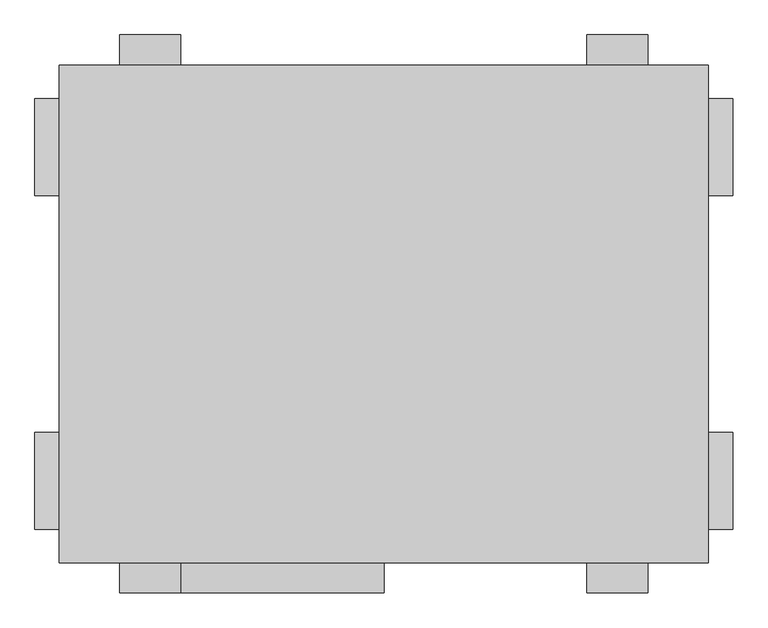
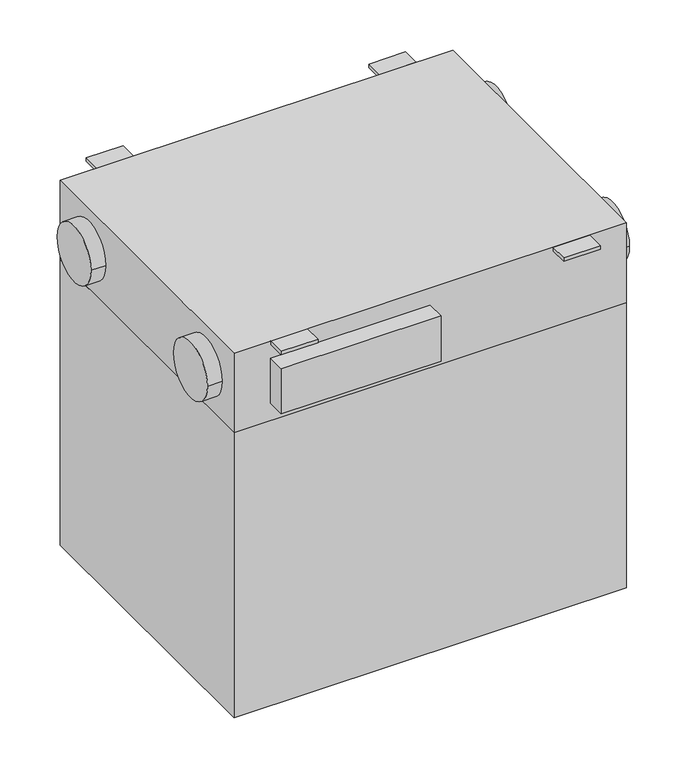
"""IFC4 building model written with IfcOpenShell, lengths in millimetres: proxy geometry, ADSK_КПВУ RONA SRME_круглая : Rona SRME 380 H1."""

from ifc_helpers import new_model, si_unit, frame, origin, place, context, project, spatial, polyline, circle_curve, outline, extrude, source, transform, mapped, element, save
from ifc_brep_helpers import plane_surface, cylinder_surface, advanced_brep


def mechanical_equipment_e5669056(model_context):
    return source(origin(), model_context, "Body", "SolidModel", [
        extrude(outline(polyline([(801.0, 410.0), (801.0, -410.0), (-269.0, -410.0), (-269.0, 410.0), (801.0, 410.0)])), frame((0.0, 0.0, -900.0), z_axis=(0.0, 0.0, 1.0), x_axis=(1.0, 0.0, 0.0)), (0.0, 0.0, 1.0), 820.0),
        advanced_brep(
        [(801.0, -410.0, 150.0), (801.0, -410.0, -80.0), (801.0, 410.0, -80.0), (801.0, 410.0, 150.0), (801.0, -195.0, 35.0), (801.0, -355.0, 35.0), (801.0, 355.0, 35.0), (801.0, 195.0, 35.0), (-269.0, -410.0, 150.0), (-269.0, 410.0, 150.0), (-269.0, 410.0, -80.0), (-269.0, -410.0, -80.0), (-269.0, -195.0, 35.0), (-269.0, -355.0, 35.0), (-269.0, 195.0, 35.0), (-269.0, 355.0, 35.0), (-309.0, -355.0, 35.0), (-309.0, -195.0, 35.0), (-309.0, 195.0, 35.0), (-309.0, 355.0, 35.0), (-169.0, -410.0, 100.0), (266.0, -410.0, 100.0), (266.0, -410.0, -30.0), (-169.0, -410.0, -30.0), (841.0, -355.0, 35.0), (841.0, -195.0, 35.0), (841.0, 195.0, 35.0), (841.0, 355.0, 35.0), (-169.0, -460.0, 100.0), (266.0, -460.0, 100.0), (266.0, -460.0, -30.0), (-169.0, -460.0, -30.0)],
        [
            (0, 1),
            (1, 2),
            (2, 3),
            (3, 0),
            (4, 5, circle_curve(frame((801.0, -275.0, 35.0), z_axis=(-1.0, 0.0, 0.0), x_axis=(0.0, 1.0, 0.0)), 80.0)),
            (5, 4, circle_curve(frame((801.0, -275.0, 35.0), z_axis=(-1.0, 0.0, 0.0), x_axis=(0.0, 1.0, 0.0)), 80.0)),
            (6, 7, circle_curve(frame((801.0, 275.0, 35.0), z_axis=(-1.0, 0.0, 0.0), x_axis=(0.0, 1.0, 0.0)), 80.0)),
            (7, 6, circle_curve(frame((801.0, 275.0, 35.0), z_axis=(-1.0, 0.0, 0.0), x_axis=(0.0, 1.0, 0.0)), 80.0)),
            (8, 9),
            (9, 10),
            (10, 11),
            (11, 8),
            (12, 13, circle_curve(frame((-269.0, -275.0, 35.0), z_axis=(1.0, 0.0, 0.0), x_axis=(0.0, 1.0, 0.0)), 80.0)),
            (13, 12, circle_curve(frame((-269.0, -275.0, 35.0), z_axis=(1.0, 0.0, 0.0), x_axis=(0.0, 1.0, 0.0)), 80.0)),
            (14, 15, circle_curve(frame((-269.0, 275.0, 35.0), z_axis=(1.0, 0.0, 0.0), x_axis=(0.0, 1.0, 0.0)), 80.0)),
            (15, 14, circle_curve(frame((-269.0, 275.0, 35.0), z_axis=(1.0, 0.0, 0.0), x_axis=(0.0, 1.0, 0.0)), 80.0)),
            (16, 17, circle_curve(frame((-309.0, -275.0, 35.0), z_axis=(-1.0, 0.0, 0.0), x_axis=(0.0, 1.0, 0.0)), 80.0)),
            (17, 16, circle_curve(frame((-309.0, -275.0, 35.0), z_axis=(-1.0, 0.0, 0.0), x_axis=(0.0, 1.0, 0.0)), 80.0)),
            (18, 19, circle_curve(frame((-309.0, 275.0, 35.0), z_axis=(-1.0, 0.0, 0.0), x_axis=(0.0, 1.0, 0.0)), 80.0)),
            (19, 18, circle_curve(frame((-309.0, 275.0, 35.0), z_axis=(-1.0, 0.0, 0.0), x_axis=(0.0, 1.0, 0.0)), 80.0)),
            (0, 8),
            (11, 1),
            (20, 21),
            (21, 22),
            (22, 23),
            (23, 20),
            (10, 2),
            (9, 3),
            (16, 13),
            (12, 17),
            (24, 25, circle_curve(frame((841.0, -275.0, 35.0), z_axis=(1.0, 0.0, 0.0), x_axis=(0.0, 1.0, 0.0)), 80.0)),
            (25, 24, circle_curve(frame((841.0, -275.0, 35.0), z_axis=(1.0, 0.0, 0.0), x_axis=(0.0, 1.0, 0.0)), 80.0)),
            (26, 27, circle_curve(frame((841.0, 275.0, 35.0), z_axis=(1.0, 0.0, 0.0), x_axis=(0.0, 1.0, 0.0)), 80.0)),
            (27, 26, circle_curve(frame((841.0, 275.0, 35.0), z_axis=(1.0, 0.0, 0.0), x_axis=(0.0, 1.0, 0.0)), 80.0)),
            (24, 5),
            (4, 25),
            (19, 15),
            (14, 18),
            (26, 7),
            (6, 27),
            (20, 28),
            (28, 29),
            (29, 21),
            (22, 30),
            (30, 31),
            (31, 23),
            (31, 28),
            (30, 29),
        ],
        [
            plane_surface(frame((801.0, -410.0, 150.0), z_axis=(1.0, 0.0, 0.0), x_axis=(0.0, 0.0, -1.0))),
            plane_surface(frame((-269.0, -410.0, 150.0), z_axis=(-1.0, 0.0, 0.0), x_axis=(0.0, 0.0, 1.0))),
            plane_surface(frame((-309.0, -195.0, 35.0), z_axis=(-1.0, 0.0, 0.0), x_axis=(0.0, 0.0, -1.0))),
            plane_surface(frame((801.0, -410.0, 150.0), z_axis=(0.0, -1.0, 0.0), x_axis=(-1.0, 0.0, 0.0))),
            plane_surface(frame((801.0, -410.0, -80.0), z_axis=(0.0, 0.0, -1.0), x_axis=(-1.0, 0.0, 0.0))),
            plane_surface(frame((801.0, 410.0, -80.0), z_axis=(0.0, 1.0, 0.0), x_axis=(-1.0, 0.0, 0.0))),
            plane_surface(frame((801.0, 410.0, 150.0), z_axis=(0.0, 0.0, 1.0), x_axis=(-1.0, 0.0, 0.0))),
            cylinder_surface(frame((-309.0, -275.0, 35.0), z_axis=(1.0, 0.0, 0.0), x_axis=(0.0, 1.0, 0.0)), 80.0),
            plane_surface(frame((841.0, -195.0, 35.0), z_axis=(1.0, 0.0, 0.0), x_axis=(0.0, 0.0, 1.0))),
            cylinder_surface(frame((801.0, -275.0, 35.0), z_axis=(1.0, 0.0, 0.0), x_axis=(0.0, 1.0, 0.0)), 80.0),
            cylinder_surface(frame((-309.0, 275.0, 35.0), z_axis=(1.0, 0.0, 0.0), x_axis=(0.0, 1.0, 0.0)), 80.0),
            cylinder_surface(frame((801.0, 275.0, 35.0), z_axis=(1.0, 0.0, 0.0), x_axis=(0.0, 1.0, 0.0)), 80.0),
            plane_surface(frame((-169.0, -410.0, 100.0), z_axis=(0.0, 0.0, 1.0), x_axis=(-1.0, 0.0, 0.0))),
            plane_surface(frame((-169.0, -410.0, -30.0), z_axis=(0.0, 0.0, -1.0), x_axis=(1.0, 0.0, 0.0))),
            plane_surface(frame((-169.0, -410.0, 100.0), z_axis=(-1.0, 0.0, 0.0), x_axis=(0.0, 0.0, -1.0))),
            plane_surface(frame((-169.0, -460.0, 100.0), z_axis=(0.0, -1.0, 0.0), x_axis=(0.0, 0.0, -1.0))),
            plane_surface(frame((266.0, -460.0, 100.0), z_axis=(1.0, 0.0, 0.0), x_axis=(0.0, 0.0, -1.0))),
        ],
        [
            (0, [[1, 2, 3, 4], [5, 6], [7, 8]]),
            (1, [[9, 10, 11, 12], [13, 14], [15, 16]]),
            (2, [[17, 18]]),
            (2, [[19, 20]]),
            (3, [[-1, 21, -12, 22], [23, 24, 25, 26]]),
            (4, [[-2, -22, -11, 27]]),
            (5, [[-3, -27, -10, 28]]),
            (6, [[-4, -28, -9, -21]]),
            (7, [[-17, 29, -13, 30]]),
            (7, [[-18, -30, -14, -29]]),
            (8, [[31, 32]]),
            (8, [[33, 34]]),
            (9, [[-31, 35, -5, 36]]),
            (9, [[-32, -36, -6, -35]]),
            (10, [[-20, 37, -15, 38]]),
            (10, [[-19, -38, -16, -37]]),
            (11, [[-33, 39, -7, 40]]),
            (11, [[-34, -40, -8, -39]]),
            (12, [[41, 42, 43, -23]]),
            (13, [[44, 45, 46, -25]]),
            (14, [[-41, -26, -46, 47]]),
            (15, [[-42, -47, -45, 48]]),
            (16, [[-43, -48, -44, -24]]),
        ],
    ),
        extrude(outline(polyline([(-69.0, 460.0), (-69.0, 410.0), (-169.0, 410.0), (-169.0, 460.0), (-69.0, 460.0)])), frame((0.0, 0.0, 140.0), z_axis=(0.0, 0.0, 1.0), x_axis=(1.0, 0.0, 0.0)), (0.0, 0.0, 1.0), 10.0),
        extrude(outline(polyline([(601.0, 460.0), (701.0, 460.0), (701.0, 410.0), (601.0, 410.0), (601.0, 460.0)])), frame((0.0, 0.0, 140.0), z_axis=(0.0, 0.0, 1.0), x_axis=(1.0, 0.0, 0.0)), (0.0, 0.0, 1.0), 10.0),
        extrude(outline(polyline([(-69.0, -460.0), (-169.0, -460.0), (-169.0, -410.0), (-69.0, -410.0), (-69.0, -460.0)])), frame((0.0, 0.0, 140.0), z_axis=(0.0, 0.0, 1.0), x_axis=(1.0, 0.0, 0.0)), (0.0, 0.0, 1.0), 10.0),
        extrude(outline(polyline([(601.0, -460.0), (601.0, -410.0), (701.0, -410.0), (701.0, -460.0), (601.0, -460.0)])), frame((0.0, 0.0, 140.0), z_axis=(0.0, 0.0, 1.0), x_axis=(1.0, 0.0, 0.0)), (0.0, 0.0, 1.0), 10.0),
    ])


if __name__ == "__main__":
    model = new_model("IFC4")
    model_context = context("Model", 3, world=origin())
    ifc_project = project(units=[si_unit("LENGTHUNIT", "METRE", prefix="MILLI")], contexts=[model_context])
    site = spatial("IfcSite", under=ifc_project)
    building = spatial("IfcBuilding", under=site)
    placement = place(None, origin())
    mechanical_equipment_shape = mechanical_equipment_e5669056(model_context)
    element("IfcBuildingElementProxy", 1, Name="ADSK_КПВУ RONA SRME_круглая : Rona SRME 380 H1", ObjectType="ADSK_КПВУ RONA SRME_круглая : Rona SRME 380 H1", at=placement, inside=building, context=model_context, shape_type="MappedRepresentation", body=[
        mapped(mechanical_equipment_shape, transform((0.0, 0.0, 0.0), x_axis=(1.0, 0.0, 0.0), y_axis=(0.0, 1.0, 0.0), z_axis=(0.0, 0.0, 1.0))),
    ])
    save(model, "model.ifc")
